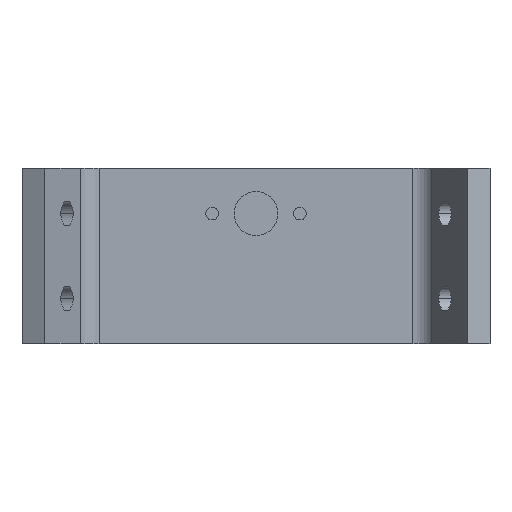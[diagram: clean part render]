
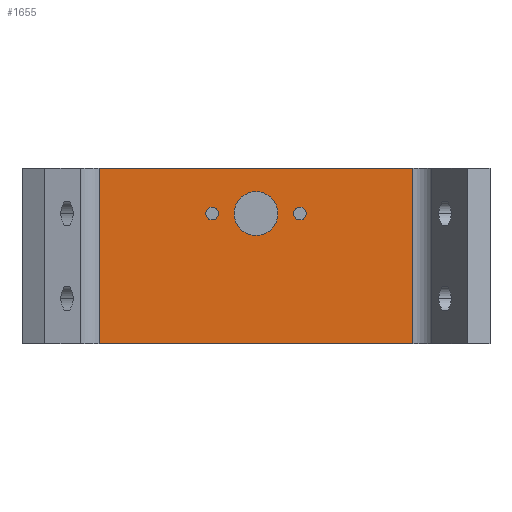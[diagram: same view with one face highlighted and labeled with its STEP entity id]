
A CAD part, front view. The second image highlights one B-rep face of the part: STEP entity #1655.
In plain terms, the highlighted planar face has unit normal (0, -1, 0).
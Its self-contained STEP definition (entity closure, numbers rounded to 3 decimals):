
#13 = CIRCLE ( 'NONE', #2658, 5. ) ;
#20 = DIRECTION ( 'NONE',  ( 1., 0., 0. ) ) ;
#45 = CIRCLE ( 'NONE', #727, 5. ) ;
#48 = CARTESIAN_POINT ( 'NONE',  ( -10., 13.5, 29.675 ) ) ;
#61 = DIRECTION ( 'NONE',  ( -1., 0., 0. ) ) ;
#105 = CARTESIAN_POINT ( 'NONE',  ( 35.72, 13.5, 0. ) ) ;
#117 = EDGE_LOOP ( 'NONE', ( #2088, #1935, #1442, #770 ) ) ;
#143 = AXIS2_PLACEMENT_3D ( 'NONE', #506, #1805, #1797 ) ;
#153 = LINE ( 'NONE', #2692, #602 ) ;
#155 = EDGE_CURVE ( 'NONE', #606, #2855, #2168, .T. ) ;
#158 = CARTESIAN_POINT ( 'NONE',  ( 5., 13.5, 29.675 ) ) ;
#166 = FACE_BOUND ( 'NONE', #1880, .T. ) ;
#173 = DIRECTION ( 'NONE',  ( 0., -1., 0. ) ) ;
#181 = VERTEX_POINT ( 'NONE', #1154 ) ;
#221 = CARTESIAN_POINT ( 'NONE',  ( 8.55, 13.5, 29.675 ) ) ;
#236 = CARTESIAN_POINT ( 'NONE',  ( 0., 13.5, 29.675 ) ) ;
#253 = VERTEX_POINT ( 'NONE', #289 ) ;
#289 = CARTESIAN_POINT ( 'NONE',  ( -11.45, 13.5, 29.675 ) ) ;
#382 = EDGE_CURVE ( 'NONE', #606, #2648, #153, .T. ) ;
#417 = DIRECTION ( 'NONE',  ( 0., -1., 0. ) ) ;
#451 = DIRECTION ( 'NONE',  ( 1., 0., 0. ) ) ;
#482 = CIRCLE ( 'NONE', #143, 1.45 ) ;
#497 = DIRECTION ( 'NONE',  ( 0., 1., 0. ) ) ;
#506 = CARTESIAN_POINT ( 'NONE',  ( 10., 13.5, 29.675 ) ) ;
#543 = DIRECTION ( 'NONE',  ( 0., 0., -1. ) ) ;
#602 = VECTOR ( 'NONE', #543, 1000. ) ;
#606 = VERTEX_POINT ( 'NONE', #2724 ) ;
#621 = ORIENTED_EDGE ( 'NONE', *, *, #1955, .F. ) ;
#625 = DIRECTION ( 'NONE',  ( 1., 0., 0. ) ) ;
#687 = DIRECTION ( 'NONE',  ( 0., -1., 0. ) ) ;
#689 = ORIENTED_EDGE ( 'NONE', *, *, #2012, .F. ) ;
#727 = AXIS2_PLACEMENT_3D ( 'NONE', #236, #1106, #451 ) ;
#770 = ORIENTED_EDGE ( 'NONE', *, *, #382, .T. ) ;
#829 = CARTESIAN_POINT ( 'NONE',  ( -8.55, 13.5, 29.675 ) ) ;
#843 = DIRECTION ( 'NONE',  ( 1., 0., 0. ) ) ;
#867 = CARTESIAN_POINT ( 'NONE',  ( 10., 13.5, 29.675 ) ) ;
#886 = VECTOR ( 'NONE', #625, 1000. ) ;
#887 = DIRECTION ( 'NONE',  ( 1., 0., 0. ) ) ;
#921 = FACE_BOUND ( 'NONE', #2668, .T. ) ;
#932 = PLANE ( 'NONE',  #1494 ) ;
#998 = AXIS2_PLACEMENT_3D ( 'NONE', #867, #2404, #887 ) ;
#1001 = CIRCLE ( 'NONE', #1776, 1.45 ) ;
#1003 = CARTESIAN_POINT ( 'NONE',  ( 35.72, 13.5, 40. ) ) ;
#1010 = CARTESIAN_POINT ( 'NONE',  ( 11.45, 13.5, 29.675 ) ) ;
#1058 = CARTESIAN_POINT ( 'NONE',  ( 0., 13.5, 0. ) ) ;
#1068 = DIRECTION ( 'NONE',  ( 1., 0., 0. ) ) ;
#1100 = AXIS2_PLACEMENT_3D ( 'NONE', #2807, #173, #843 ) ;
#1106 = DIRECTION ( 'NONE',  ( 0., -1., 0. ) ) ;
#1154 = CARTESIAN_POINT ( 'NONE',  ( -5., 13.5, 29.675 ) ) ;
#1302 = CARTESIAN_POINT ( 'NONE',  ( 0., 13.5, 29.675 ) ) ;
#1331 = VERTEX_POINT ( 'NONE', #829 ) ;
#1357 = EDGE_CURVE ( 'NONE', #253, #1331, #2608, .T. ) ;
#1394 = CARTESIAN_POINT ( 'NONE',  ( 0., 13.5, 40. ) ) ;
#1442 = ORIENTED_EDGE ( 'NONE', *, *, #155, .F. ) ;
#1467 = VECTOR ( 'NONE', #20, 1000. ) ;
#1494 = AXIS2_PLACEMENT_3D ( 'NONE', #1394, #497, #61 ) ;
#1501 = ORIENTED_EDGE ( 'NONE', *, *, #1609, .F. ) ;
#1534 = EDGE_CURVE ( 'NONE', #2230, #1895, #482, .T. ) ;
#1536 = LINE ( 'NONE', #1003, #2321 ) ;
#1555 = ORIENTED_EDGE ( 'NONE', *, *, #2627, .F. ) ;
#1609 = EDGE_CURVE ( 'NONE', #1331, #253, #1001, .T. ) ;
#1655 = ADVANCED_FACE ( 'NONE', ( #921, #1658, #166, #2456 ), #932, .F. ) ;
#1658 = FACE_BOUND ( 'NONE', #1809, .T. ) ;
#1678 = VERTEX_POINT ( 'NONE', #105 ) ;
#1711 = CARTESIAN_POINT ( 'NONE',  ( 35.72, 13.5, 40. ) ) ;
#1776 = AXIS2_PLACEMENT_3D ( 'NONE', #48, #687, #2679 ) ;
#1797 = DIRECTION ( 'NONE',  ( 1., 0., 0. ) ) ;
#1805 = DIRECTION ( 'NONE',  ( 0., -1., 0. ) ) ;
#1809 = EDGE_LOOP ( 'NONE', ( #1501, #2429 ) ) ;
#1880 = EDGE_LOOP ( 'NONE', ( #1555, #621 ) ) ;
#1886 = LINE ( 'NONE', #1058, #886 ) ;
#1895 = VERTEX_POINT ( 'NONE', #1010 ) ;
#1930 = ORIENTED_EDGE ( 'NONE', *, *, #1534, .F. ) ;
#1935 = ORIENTED_EDGE ( 'NONE', *, *, #2439, .F. ) ;
#1955 = EDGE_CURVE ( 'NONE', #181, #2000, #13, .T. ) ;
#1994 = EDGE_CURVE ( 'NONE', #2648, #1678, #1886, .T. ) ;
#2000 = VERTEX_POINT ( 'NONE', #158 ) ;
#2012 = EDGE_CURVE ( 'NONE', #1895, #2230, #2384, .T. ) ;
#2088 = ORIENTED_EDGE ( 'NONE', *, *, #1994, .T. ) ;
#2168 = LINE ( 'NONE', #2465, #1467 ) ;
#2198 = CARTESIAN_POINT ( 'NONE',  ( -35.72, 13.5, 0. ) ) ;
#2230 = VERTEX_POINT ( 'NONE', #221 ) ;
#2321 = VECTOR ( 'NONE', #2529, 1000. ) ;
#2384 = CIRCLE ( 'NONE', #998, 1.45 ) ;
#2404 = DIRECTION ( 'NONE',  ( 0., -1., 0. ) ) ;
#2429 = ORIENTED_EDGE ( 'NONE', *, *, #1357, .F. ) ;
#2439 = EDGE_CURVE ( 'NONE', #2855, #1678, #1536, .T. ) ;
#2456 = FACE_OUTER_BOUND ( 'NONE', #117, .T. ) ;
#2465 = CARTESIAN_POINT ( 'NONE',  ( 0., 13.5, 40. ) ) ;
#2529 = DIRECTION ( 'NONE',  ( 0., 0., -1. ) ) ;
#2608 = CIRCLE ( 'NONE', #1100, 1.45 ) ;
#2627 = EDGE_CURVE ( 'NONE', #2000, #181, #45, .T. ) ;
#2648 = VERTEX_POINT ( 'NONE', #2198 ) ;
#2658 = AXIS2_PLACEMENT_3D ( 'NONE', #1302, #417, #1068 ) ;
#2668 = EDGE_LOOP ( 'NONE', ( #689, #1930 ) ) ;
#2679 = DIRECTION ( 'NONE',  ( 1., 0., 0. ) ) ;
#2692 = CARTESIAN_POINT ( 'NONE',  ( -35.72, 13.5, 40. ) ) ;
#2724 = CARTESIAN_POINT ( 'NONE',  ( -35.72, 13.5, 40. ) ) ;
#2807 = CARTESIAN_POINT ( 'NONE',  ( -10., 13.5, 29.675 ) ) ;
#2855 = VERTEX_POINT ( 'NONE', #1711 ) ;
